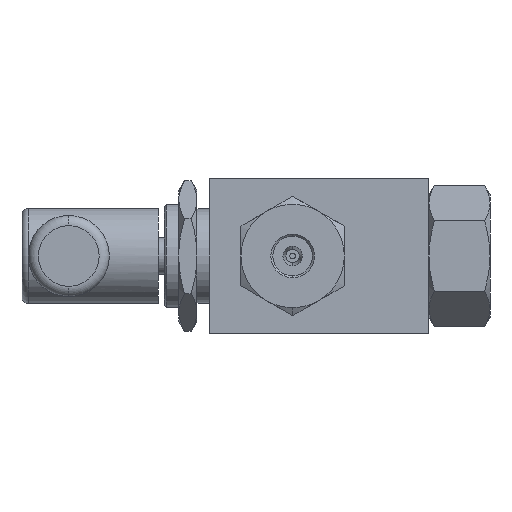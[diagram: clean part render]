
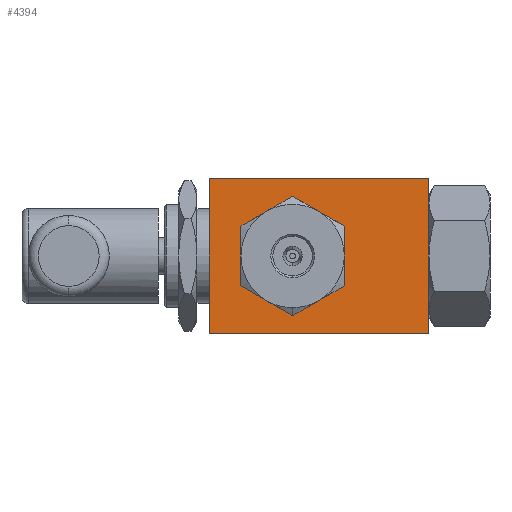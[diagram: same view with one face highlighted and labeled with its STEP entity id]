
A CAD part, left-side view. The second image highlights one B-rep face of the part: STEP entity #4394.
In plain terms, the highlighted planar face has unit normal (-1, 0, 0).
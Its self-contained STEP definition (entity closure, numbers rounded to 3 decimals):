
#5 = EDGE_CURVE ( 'NONE', #120, #4259, #5523, .T. ) ;
#98 = ORIENTED_EDGE ( 'NONE', *, *, #3414, .T. ) ;
#120 = VERTEX_POINT ( 'NONE', #4610 ) ;
#182 = CARTESIAN_POINT ( 'NONE',  ( -33.25, 27., 19. ) ) ;
#203 = LINE ( 'NONE', #6435, #1214 ) ;
#237 = CIRCLE ( 'NONE', #4053, 11. ) ;
#291 = VERTEX_POINT ( 'NONE', #4871 ) ;
#391 = CARTESIAN_POINT ( 'NONE',  ( -33.25, 6.5, 0. ) ) ;
#458 = ORIENTED_EDGE ( 'NONE', *, *, #3205, .F. ) ;
#496 = ORIENTED_EDGE ( 'NONE', *, *, #5, .T. ) ;
#561 = EDGE_CURVE ( 'NONE', #4041, #291, #2651, .T. ) ;
#664 = AXIS2_PLACEMENT_3D ( 'NONE', #3160, #1468, #6668 ) ;
#778 = ORIENTED_EDGE ( 'NONE', *, *, #3062, .T. ) ;
#796 = VECTOR ( 'NONE', #4348, 1000. ) ;
#903 = CARTESIAN_POINT ( 'NONE',  ( -33.25, 6.5, 11. ) ) ;
#913 = DIRECTION ( 'NONE',  ( 0., -1., 0. ) ) ;
#935 = CARTESIAN_POINT ( 'NONE',  ( -33.25, 12., 9.526 ) ) ;
#1214 = VECTOR ( 'NONE', #6025, 1000. ) ;
#1263 = ORIENTED_EDGE ( 'NONE', *, *, #2856, .T. ) ;
#1304 = CIRCLE ( 'NONE', #3815, 11. ) ;
#1317 = CARTESIAN_POINT ( 'NONE',  ( -33.25, -27., -19. ) ) ;
#1468 = DIRECTION ( 'NONE',  ( 1., 0., 0. ) ) ;
#1480 = DIRECTION ( 'NONE',  ( 0., 0., -1. ) ) ;
#1511 = CARTESIAN_POINT ( 'NONE',  ( -33.25, 12., -9.526 ) ) ;
#1541 = DIRECTION ( 'NONE',  ( 0., 0., -1. ) ) ;
#1571 = CARTESIAN_POINT ( 'NONE',  ( -33.25, -27., 19. ) ) ;
#1586 = CARTESIAN_POINT ( 'NONE',  ( -33.25, -27., -19. ) ) ;
#1608 = DIRECTION ( 'NONE',  ( 1., 0., 0. ) ) ;
#1616 = VERTEX_POINT ( 'NONE', #6163 ) ;
#1728 = CIRCLE ( 'NONE', #2722, 11. ) ;
#1770 = VECTOR ( 'NONE', #3638, 1000. ) ;
#1963 = DIRECTION ( 'NONE',  ( 1., 0., 0. ) ) ;
#2040 = CARTESIAN_POINT ( 'NONE',  ( -33.25, 6.5, 0. ) ) ;
#2297 = CIRCLE ( 'NONE', #3503, 11. ) ;
#2311 = EDGE_CURVE ( 'NONE', #6595, #3624, #1304, .T. ) ;
#2371 = CARTESIAN_POINT ( 'NONE',  ( -33.25, -4.5, 0. ) ) ;
#2383 = DIRECTION ( 'NONE',  ( 0., 0., -1. ) ) ;
#2568 = ORIENTED_EDGE ( 'NONE', *, *, #2311, .T. ) ;
#2582 = CARTESIAN_POINT ( 'NONE',  ( -33.25, 6.5, 0. ) ) ;
#2651 = CIRCLE ( 'NONE', #4057, 11. ) ;
#2722 = AXIS2_PLACEMENT_3D ( 'NONE', #4446, #1963, #3539 ) ;
#2856 = EDGE_CURVE ( 'NONE', #6493, #4041, #2297, .T. ) ;
#2945 = CARTESIAN_POINT ( 'NONE',  ( -33.25, -27., 19. ) ) ;
#3033 = CIRCLE ( 'NONE', #3698, 11. ) ;
#3038 = CARTESIAN_POINT ( 'NONE',  ( -33.25, 6.5, 0. ) ) ;
#3062 = EDGE_CURVE ( 'NONE', #3624, #6154, #3606, .T. ) ;
#3160 = CARTESIAN_POINT ( 'NONE',  ( -33.25, 6.5, 0. ) ) ;
#3164 = CARTESIAN_POINT ( 'NONE',  ( -33.25, 27., -19. ) ) ;
#3191 = ORIENTED_EDGE ( 'NONE', *, *, #3580, .T. ) ;
#3205 = EDGE_CURVE ( 'NONE', #1616, #3720, #203, .T. ) ;
#3278 = CARTESIAN_POINT ( 'NONE',  ( -33.25, 1., 9.526 ) ) ;
#3369 = EDGE_CURVE ( 'NONE', #120, #1616, #6696, .T. ) ;
#3414 = EDGE_CURVE ( 'NONE', #4233, #6595, #3033, .T. ) ;
#3503 = AXIS2_PLACEMENT_3D ( 'NONE', #2582, #3643, #1480 ) ;
#3539 = DIRECTION ( 'NONE',  ( 0., 0., -1. ) ) ;
#3580 = EDGE_CURVE ( 'NONE', #291, #4233, #1728, .T. ) ;
#3606 = CIRCLE ( 'NONE', #664, 11. ) ;
#3610 = ORIENTED_EDGE ( 'NONE', *, *, #561, .T. ) ;
#3624 = VERTEX_POINT ( 'NONE', #935 ) ;
#3626 = DIRECTION ( 'NONE',  ( 1., 0., 0. ) ) ;
#3638 = DIRECTION ( 'NONE',  ( 0., -1., 0. ) ) ;
#3643 = DIRECTION ( 'NONE',  ( 1., 0., 0. ) ) ;
#3698 = AXIS2_PLACEMENT_3D ( 'NONE', #3038, #6630, #4097 ) ;
#3720 = VERTEX_POINT ( 'NONE', #1586 ) ;
#3815 = AXIS2_PLACEMENT_3D ( 'NONE', #391, #4994, #2383 ) ;
#3919 = ORIENTED_EDGE ( 'NONE', *, *, #6540, .T. ) ;
#3937 = DIRECTION ( 'NONE',  ( 0., 0., -1. ) ) ;
#4041 = VERTEX_POINT ( 'NONE', #2371 ) ;
#4053 = AXIS2_PLACEMENT_3D ( 'NONE', #2040, #3626, #4127 ) ;
#4057 = AXIS2_PLACEMENT_3D ( 'NONE', #6270, #1608, #1541 ) ;
#4097 = DIRECTION ( 'NONE',  ( 0., 0., -1. ) ) ;
#4127 = DIRECTION ( 'NONE',  ( 0., 0., -1. ) ) ;
#4233 = VERTEX_POINT ( 'NONE', #1511 ) ;
#4259 = VERTEX_POINT ( 'NONE', #3164 ) ;
#4265 = ORIENTED_EDGE ( 'NONE', *, *, #5922, .T. ) ;
#4348 = DIRECTION ( 'NONE',  ( 0., 0., -1. ) ) ;
#4394 = ADVANCED_FACE ( 'NONE', ( #5480, #6467 ), #5440, .F. ) ;
#4446 = CARTESIAN_POINT ( 'NONE',  ( -33.25, 6.5, 0. ) ) ;
#4479 = EDGE_LOOP ( 'NONE', ( #3191, #98, #2568, #778, #4265, #1263, #3610 ) ) ;
#4502 = ORIENTED_EDGE ( 'NONE', *, *, #3369, .F. ) ;
#4610 = CARTESIAN_POINT ( 'NONE',  ( -33.25, 27., 19. ) ) ;
#4871 = CARTESIAN_POINT ( 'NONE',  ( -33.25, 1., -9.526 ) ) ;
#4994 = DIRECTION ( 'NONE',  ( 1., 0., 0. ) ) ;
#5004 = DIRECTION ( 'NONE',  ( 1., 0., 0. ) ) ;
#5252 = CARTESIAN_POINT ( 'NONE',  ( -33.25, 17.5, 0. ) ) ;
#5440 = PLANE ( 'NONE',  #6258 ) ;
#5480 = FACE_OUTER_BOUND ( 'NONE', #6054, .T. ) ;
#5523 = LINE ( 'NONE', #182, #796 ) ;
#5922 = EDGE_CURVE ( 'NONE', #6154, #6493, #237, .T. ) ;
#5973 = LINE ( 'NONE', #1317, #1770 ) ;
#6025 = DIRECTION ( 'NONE',  ( 0., 0., -1. ) ) ;
#6054 = EDGE_LOOP ( 'NONE', ( #3919, #458, #4502, #496 ) ) ;
#6154 = VERTEX_POINT ( 'NONE', #903 ) ;
#6163 = CARTESIAN_POINT ( 'NONE',  ( -33.25, -27., 19. ) ) ;
#6258 = AXIS2_PLACEMENT_3D ( 'NONE', #2945, #5004, #3937 ) ;
#6270 = CARTESIAN_POINT ( 'NONE',  ( -33.25, 6.5, 0. ) ) ;
#6435 = CARTESIAN_POINT ( 'NONE',  ( -33.25, -27., 19. ) ) ;
#6467 = FACE_BOUND ( 'NONE', #4479, .T. ) ;
#6493 = VERTEX_POINT ( 'NONE', #3278 ) ;
#6540 = EDGE_CURVE ( 'NONE', #4259, #3720, #5973, .T. ) ;
#6595 = VERTEX_POINT ( 'NONE', #5252 ) ;
#6606 = VECTOR ( 'NONE', #913, 1000. ) ;
#6630 = DIRECTION ( 'NONE',  ( 1., 0., 0. ) ) ;
#6668 = DIRECTION ( 'NONE',  ( 0., 0., -1. ) ) ;
#6696 = LINE ( 'NONE', #1571, #6606 ) ;
